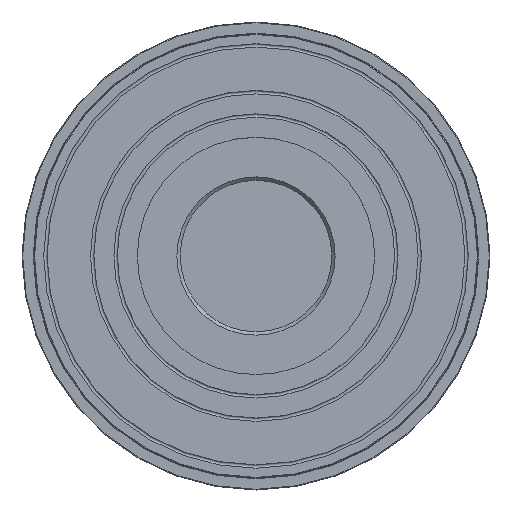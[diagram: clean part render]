
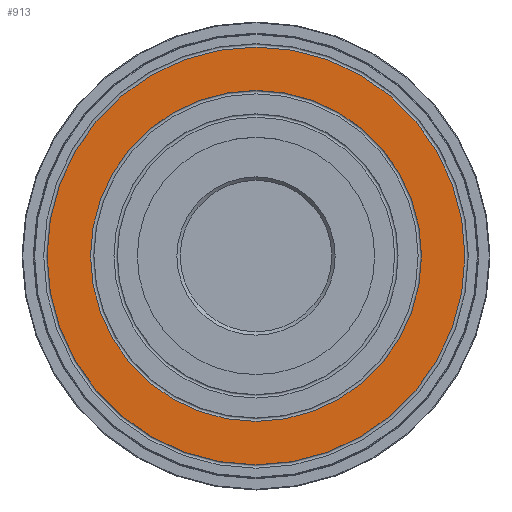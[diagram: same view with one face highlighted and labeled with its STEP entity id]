
A CAD part, top view. The second image highlights one B-rep face of the part: STEP entity #913.
In plain terms, the highlighted planar face has unit normal (0, 0, 1).
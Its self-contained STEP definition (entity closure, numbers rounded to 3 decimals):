
#913=ADVANCED_FACE('',(#1724,#1726),#1728,.T.);
#1724=FACE_BOUND('',#1725,.T.);
#1725=EDGE_LOOP('',(#4994));
#1726=FACE_BOUND('',#1727,.T.);
#1727=EDGE_LOOP('',(#4995));
#1728=PLANE('',#1729);
#1729=AXIS2_PLACEMENT_3D('',#1730,#1731,#1732);
#1730=CARTESIAN_POINT('',(0.,0.,0.));
#1731=DIRECTION('',(0.,0.,1.));
#1732=DIRECTION('',(0.,1.,0.));
#4994=ORIENTED_EDGE('',*,*,#5383,.T.);
#4995=ORIENTED_EDGE('',*,*,#5385,.T.);
#5383=EDGE_CURVE('',#5874,#5874,#5875,.F.);
#5385=EDGE_CURVE('',#5878,#5878,#5879,.T.);
#5874=VERTEX_POINT('',#8376);
#5875=CIRCLE('',#8377,61.6);
#5878=VERTEX_POINT('',#8386);
#5879=CIRCLE('',#8387,48.8);
#8376=CARTESIAN_POINT('',(0.,61.6,0.));
#8377=AXIS2_PLACEMENT_3D('',#8378,#8379,#8380);
#8378=CARTESIAN_POINT('',(0.,0.,0.));
#8379=DIRECTION('',(0.,0.,-1.));
#8380=DIRECTION('',(0.,1.,0.));
#8386=CARTESIAN_POINT('',(0.,48.8,0.));
#8387=AXIS2_PLACEMENT_3D('',#8388,#8389,#8390);
#8388=CARTESIAN_POINT('',(0.,0.,0.));
#8389=DIRECTION('',(0.,0.,-1.));
#8390=DIRECTION('',(0.,1.,0.));
